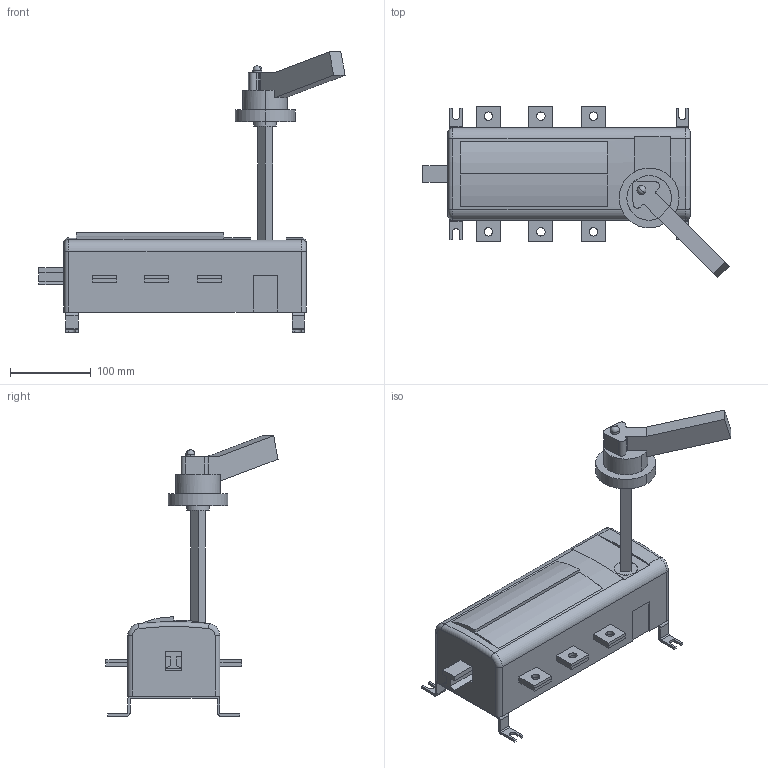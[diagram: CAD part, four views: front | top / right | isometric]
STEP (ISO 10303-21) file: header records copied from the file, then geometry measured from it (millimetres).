
FILE_DESCRIPTION (( 'STEP AP214' ), '1' );
FILE_NAME ('Âûêëþ÷àòåëü íàãðóçêè ÂÍÊ-37-31130-400À-IP32-ÓÕË3-ÊÝÀÇ.STEP', '2023-04-19T11:35:49', ( '' ), ( '' ), 'SwSTEP 2.0', 'SolidWorks 2018', '' );
FILE_SCHEMA (( 'AUTOMOTIVE_DESIGN' ));
Length unit declared in the file: millimetre
Products named in the file (1): Âûêëþ÷àòåëü íàãðóçêè ÂÍÊ-37-31130-400À-IP32-ÓÕË3-ÊÝÀÇ
Bounding box: 379 x 212.99 x 346.99 mm (x, y, z)
Volume: 3398217.1 mm3; surface area: 219379.3 mm2
Topology: 10 solids, 10 shells, 264 faces, 671 edges, 444 vertices
Faces by surface type: plane 175, cylinder 77, torus 6, cone 4, sphere 2
Entity records: 11001 total; most frequent: CARTESIAN_POINT 1383, DIRECTION 1379, ORIENTED_EDGE 1334, EDGE_CURVE 667, VECTOR 479, LINE 479, AXIS2_PLACEMENT_3D 450, VERTEX_POINT 442
